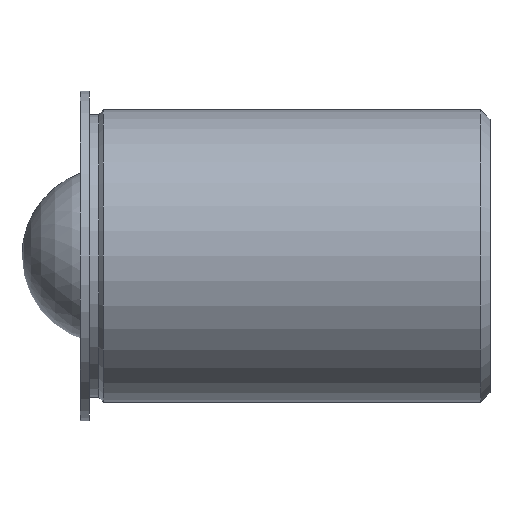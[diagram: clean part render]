
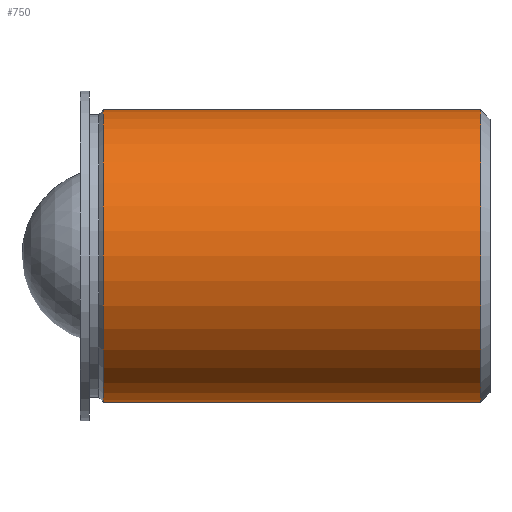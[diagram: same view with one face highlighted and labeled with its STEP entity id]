
A CAD part, front view. The second image highlights one B-rep face of the part: STEP entity #750.
In plain terms, the highlighted cylindrical face has radius 3.969 mm (diameter 7.938 mm), a partial arc.
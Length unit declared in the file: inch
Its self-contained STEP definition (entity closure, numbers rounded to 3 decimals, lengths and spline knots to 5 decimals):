
#37 = CIRCLE ( 'NONE', #1379, 0.15625 ) ;
#64 = CARTESIAN_POINT ( 'NONE',  ( -0.05929, 0.34842, 0.15939 ) ) ;
#66 = DIRECTION ( 'NONE',  ( 0., 0., 1. ) ) ;
#150 = DIRECTION ( 'NONE',  ( 0., 0., 1. ) ) ;
#196 = CARTESIAN_POINT ( 'NONE',  ( -0.05929, 0.34842, 0.47189 ) ) ;
#209 = CARTESIAN_POINT ( 'NONE',  ( -0.48729, 0.34842, 0.15939 ) ) ;
#282 = DIRECTION ( 'NONE',  ( -1., 0., 0. ) ) ;
#290 = VERTEX_POINT ( 'NONE', #64 ) ;
#291 = AXIS2_PLACEMENT_3D ( 'NONE', #1110, #983, #150 ) ;
#300 = LINE ( 'NONE', #648, #1146 ) ;
#328 = CARTESIAN_POINT ( 'NONE',  ( -0.48729, 0.34842, 0.31564 ) ) ;
#339 = DIRECTION ( 'NONE',  ( -1., 0., 0. ) ) ;
#466 = VERTEX_POINT ( 'NONE', #800 ) ;
#498 = ORIENTED_EDGE ( 'NONE', *, *, #1461, .T. ) ;
#506 = DIRECTION ( 'NONE',  ( 0., 0., 1. ) ) ;
#599 = ORIENTED_EDGE ( 'NONE', *, *, #1172, .T. ) ;
#630 = CARTESIAN_POINT ( 'NONE',  ( -0.46229, 0.34842, 0.31564 ) ) ;
#648 = CARTESIAN_POINT ( 'NONE',  ( -0.48729, 0.34842, 0.47189 ) ) ;
#708 = VECTOR ( 'NONE', #339, 39.37008 ) ;
#750 = ADVANCED_FACE ( 'NONE', ( #1397 ), #1256, .T. ) ;
#796 = EDGE_CURVE ( 'NONE', #290, #1105, #986, .T. ) ;
#800 = CARTESIAN_POINT ( 'NONE',  ( -0.46229, 0.34842, 0.47189 ) ) ;
#913 = CIRCLE ( 'NONE', #291, 0.15625 ) ;
#983 = DIRECTION ( 'NONE',  ( -1., 0., 0. ) ) ;
#986 = LINE ( 'NONE', #209, #708 ) ;
#1064 = ORIENTED_EDGE ( 'NONE', *, *, #1222, .F. ) ;
#1105 = VERTEX_POINT ( 'NONE', #1299 ) ;
#1110 = CARTESIAN_POINT ( 'NONE',  ( -0.05929, 0.34842, 0.31564 ) ) ;
#1146 = VECTOR ( 'NONE', #282, 39.37008 ) ;
#1172 = EDGE_CURVE ( 'NONE', #1277, #466, #300, .T. ) ;
#1222 = EDGE_CURVE ( 'NONE', #1105, #466, #37, .T. ) ;
#1234 = AXIS2_PLACEMENT_3D ( 'NONE', #328, #1377, #66 ) ;
#1245 = ORIENTED_EDGE ( 'NONE', *, *, #796, .F. ) ;
#1256 = CYLINDRICAL_SURFACE ( 'NONE', #1234, 0.15625 ) ;
#1277 = VERTEX_POINT ( 'NONE', #196 ) ;
#1299 = CARTESIAN_POINT ( 'NONE',  ( -0.46229, 0.34842, 0.15939 ) ) ;
#1326 = DIRECTION ( 'NONE',  ( -1., 0., 0. ) ) ;
#1377 = DIRECTION ( 'NONE',  ( -1., 0., 0. ) ) ;
#1379 = AXIS2_PLACEMENT_3D ( 'NONE', #630, #1326, #506 ) ;
#1397 = FACE_OUTER_BOUND ( 'NONE', #1420, .T. ) ;
#1420 = EDGE_LOOP ( 'NONE', ( #1245, #498, #599, #1064 ) ) ;
#1461 = EDGE_CURVE ( 'NONE', #290, #1277, #913, .T. ) ;
